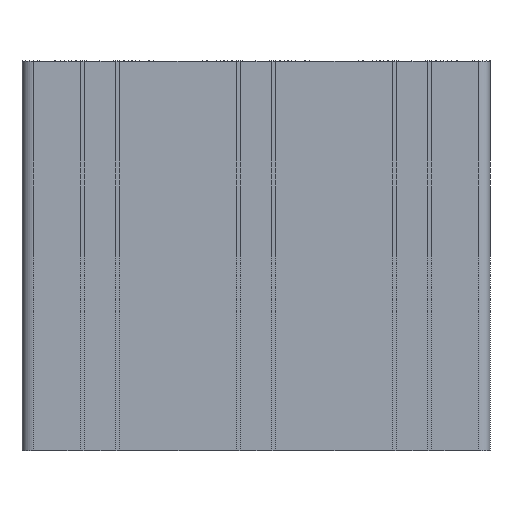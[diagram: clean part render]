
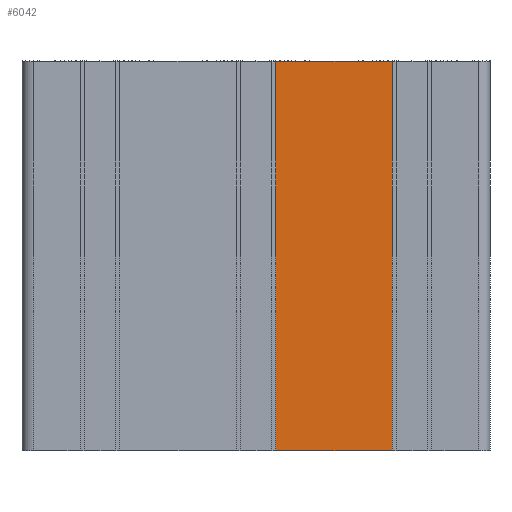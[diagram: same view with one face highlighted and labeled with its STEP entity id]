
A CAD part, left-side view. The second image highlights one B-rep face of the part: STEP entity #6042.
In plain terms, the highlighted planar face has unit normal (-1, 0, 0).
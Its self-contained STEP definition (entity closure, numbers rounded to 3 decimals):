
#262 = ORIENTED_EDGE ( 'NONE', *, *, #7700, .T. ) ;
#759 = VECTOR ( 'NONE', #7313, 1000. ) ;
#916 = AXIS2_PLACEMENT_3D ( 'NONE', #6083, #7577, #5955 ) ;
#1047 = CARTESIAN_POINT ( 'NONE',  ( -20., -34.9, -100. ) ) ;
#1147 = EDGE_LOOP ( 'NONE', ( #2775, #7345, #5345, #262 ) ) ;
#1155 = EDGE_CURVE ( 'NONE', #8761, #3173, #5617, .T. ) ;
#2119 = CARTESIAN_POINT ( 'NONE',  ( -20., -5.1, -100. ) ) ;
#2271 = VERTEX_POINT ( 'NONE', #3814 ) ;
#2464 = DIRECTION ( 'NONE',  ( 0., 0., 1. ) ) ;
#2775 = ORIENTED_EDGE ( 'NONE', *, *, #1155, .T. ) ;
#3086 = DIRECTION ( 'NONE',  ( 0., -1., 0. ) ) ;
#3173 = VERTEX_POINT ( 'NONE', #8421 ) ;
#3814 = CARTESIAN_POINT ( 'NONE',  ( -20., -5.1, 0. ) ) ;
#3920 = VERTEX_POINT ( 'NONE', #5284 ) ;
#5284 = CARTESIAN_POINT ( 'NONE',  ( -20., -5.1, -100. ) ) ;
#5291 = CARTESIAN_POINT ( 'NONE',  ( -20., -60., -100. ) ) ;
#5334 = FACE_OUTER_BOUND ( 'NONE', #1147, .T. ) ;
#5338 = CARTESIAN_POINT ( 'NONE',  ( -20., -34.9, -100. ) ) ;
#5345 = ORIENTED_EDGE ( 'NONE', *, *, #6393, .F. ) ;
#5617 = LINE ( 'NONE', #1047, #6909 ) ;
#5879 = CARTESIAN_POINT ( 'NONE',  ( -20., -60., 0. ) ) ;
#5955 = DIRECTION ( 'NONE',  ( 0., 0., 1. ) ) ;
#6042 = ADVANCED_FACE ( 'NONE', ( #5334 ), #8972, .T. ) ;
#6083 = CARTESIAN_POINT ( 'NONE',  ( -20., -60., -100. ) ) ;
#6393 = EDGE_CURVE ( 'NONE', #3920, #2271, #8145, .T. ) ;
#6413 = VECTOR ( 'NONE', #8723, 1000. ) ;
#6909 = VECTOR ( 'NONE', #2464, 1000. ) ;
#7088 = LINE ( 'NONE', #5291, #8595 ) ;
#7313 = DIRECTION ( 'NONE',  ( 0., -1., 0. ) ) ;
#7345 = ORIENTED_EDGE ( 'NONE', *, *, #9026, .F. ) ;
#7577 = DIRECTION ( 'NONE',  ( -1., 0., 0. ) ) ;
#7700 = EDGE_CURVE ( 'NONE', #3920, #8761, #7088, .T. ) ;
#8145 = LINE ( 'NONE', #2119, #6413 ) ;
#8421 = CARTESIAN_POINT ( 'NONE',  ( -20., -34.9, 0. ) ) ;
#8595 = VECTOR ( 'NONE', #3086, 1000. ) ;
#8723 = DIRECTION ( 'NONE',  ( 0., 0., 1. ) ) ;
#8761 = VERTEX_POINT ( 'NONE', #5338 ) ;
#8886 = LINE ( 'NONE', #5879, #759 ) ;
#8972 = PLANE ( 'NONE',  #916 ) ;
#9026 = EDGE_CURVE ( 'NONE', #2271, #3173, #8886, .T. ) ;
